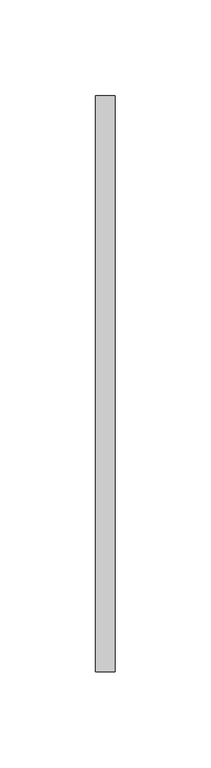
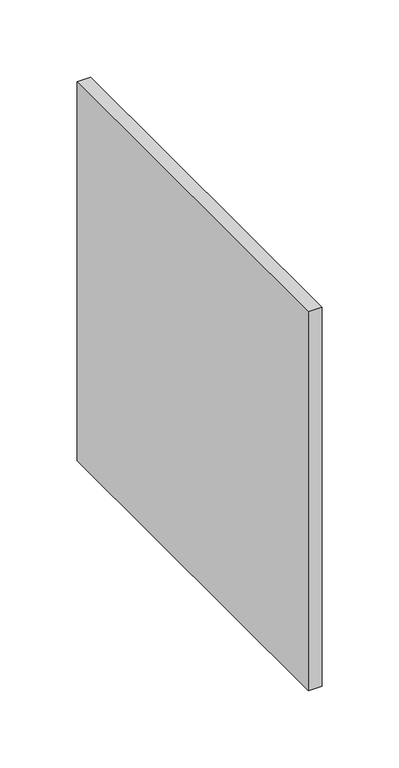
"""IFC4 building model written with IfcOpenShell, lengths in millimetres: duct fitting geometry, BL_ЗаглушкаВоздуховодов_Прямоугольная : BL_ЗаглушкаВоздуховодов_Прямоугольная."""

from ifc_helpers import new_model, si_unit, frame, origin, place, context, project, spatial, polyline, outline, extrude, source, transform, mapped, element, save


def duct_fitting_09fa4591(model_context):
    return source(origin(), model_context, "Body", "SweptSolid", [
        extrude(outline(polyline([(10.0, 150.0), (10.0, -150.0), (0.0, -150.0), (0.0, 150.0), (10.0, 150.0)])), frame((0.0, 0.0, -150.0), z_axis=(0.0, 0.0, 1.0), x_axis=(1.0, 0.0, 0.0)), (0.0, 0.0, 1.0), 300.0),
    ])


if __name__ == "__main__":
    model = new_model("IFC4")
    model_context = context("Model", 3, world=origin())
    ifc_project = project(units=[si_unit("LENGTHUNIT", "METRE", prefix="MILLI")], contexts=[model_context])
    site = spatial("IfcSite", under=ifc_project)
    building = spatial("IfcBuilding", under=site)
    placement = place(None, origin())
    duct_fitting_shape = duct_fitting_09fa4591(model_context)
    element("IfcDuctFitting", 1, ObjectType="BL_ЗаглушкаВоздуховодов_Прямоугольная : BL_ЗаглушкаВоздуховодов_Прямоугольная", at=placement, inside=building, context=model_context, shape_type="MappedRepresentation", body=[
        mapped(duct_fitting_shape, transform((0.0, 0.0, 0.0), x_axis=(1.0, 0.0, 0.0), y_axis=(0.0, 1.0, 0.0), z_axis=(0.0, 0.0, 1.0))),
    ])
    save(model, "model.ifc")
